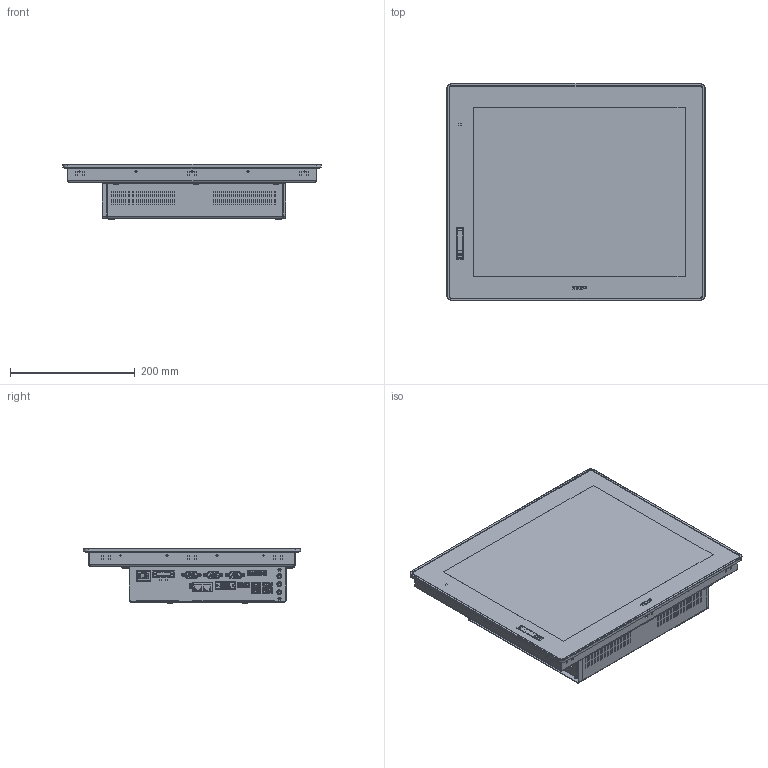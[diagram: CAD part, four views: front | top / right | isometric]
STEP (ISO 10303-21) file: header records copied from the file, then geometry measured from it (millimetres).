
FILE_DESCRIPTION((''),'2;1');
FILE_NAME('3D-TOP-PCVIEW_17','2019-02-13T18:46:49',('bckim'),(''),'CREO PARAMETRIC BY PTC INC, 2018400','CREO PARAMETRIC BY PTC INC, 2018400','');
FILE_SCHEMA(('CONFIG_CONTROL_DESIGN'));
Products named in the file (1): 3D-TOP-PCVIEW_17
Bounding box: 414 x 348 x 89.45 mm (x, y, z)
Volume: 7976446.4 mm3; surface area: 471420 mm2
Topology: 1 solids, 25 shells, 6656 faces, 18174 edges, 11713 vertices
Faces by surface type: plane 4623, cylinder 1381, cone 247, torus 196, bspline 144, sphere 38, extrusion 27
Entity records: 232388 total; most frequent: CARTESIAN_POINT 63655, ORIENTED_EDGE 36336, DIRECTION 33071, EDGE_CURVE 18168, VECTOR 13373, LINE 13346, VERTEX_POINT 11713, AXIS2_PLACEMENT_3D 9849
